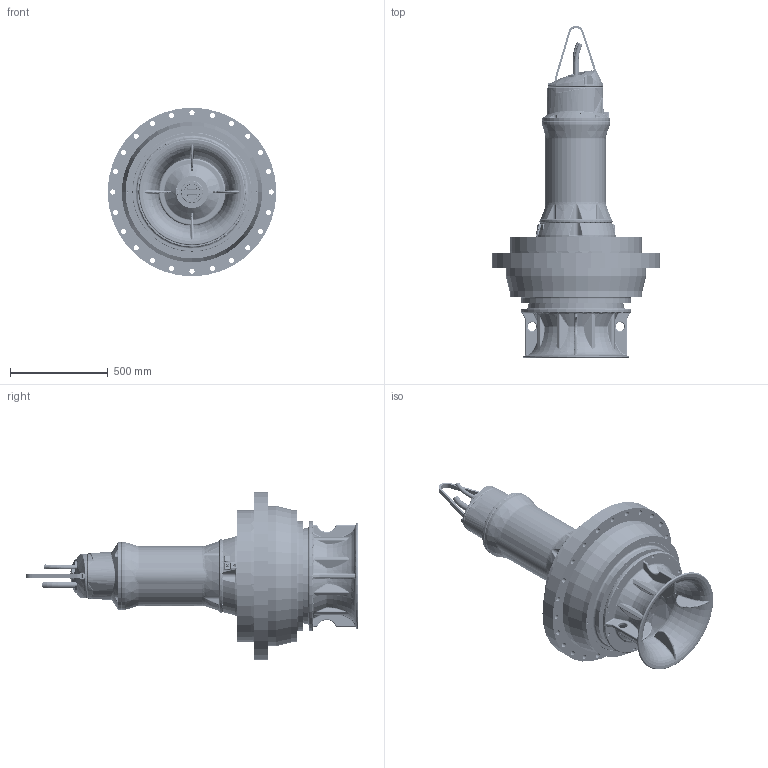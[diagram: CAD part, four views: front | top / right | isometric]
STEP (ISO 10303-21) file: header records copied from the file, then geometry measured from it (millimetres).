
FILE_DESCRIPTION (( 'STEP AP214' ), '1' );
FILE_NAME ('SE3 AFLC 0701.STEP', '2020-09-24T08:55:43', ( '' ), ( '' ), 'SwSTEP 2.0', 'SolidWorks 2017', '' );
FILE_SCHEMA (( 'AUTOMOTIVE_DESIGN' ));
Length unit declared in the file: millimetre
Products named in the file (1): SE3 AFLC 0701
Bounding box: 863 x 1698.2 x 863 mm (x, y, z)
Volume: 79304185.1 mm3; surface area: 9563888.3 mm2
Topology: 15 solids, 15 shells, 5839 faces, 14138 edges, 8202 vertices
Faces by surface type: bspline 2084, cylinder 1364, plane 1073, torus 679, cone 397, sphere 242
Entity records: 417644 total; most frequent: CARTESIAN_POINT 232818, ORIENTED_EDGE 27518, DIRECTION 21994, EDGE_CURVE 13759, AXIS2_PLACEMENT_3D 9209, VERTEX_POINT 8197, EDGE_LOOP 6342, UNCERTAINTY_MEASURE_WITH_UNIT 5856
